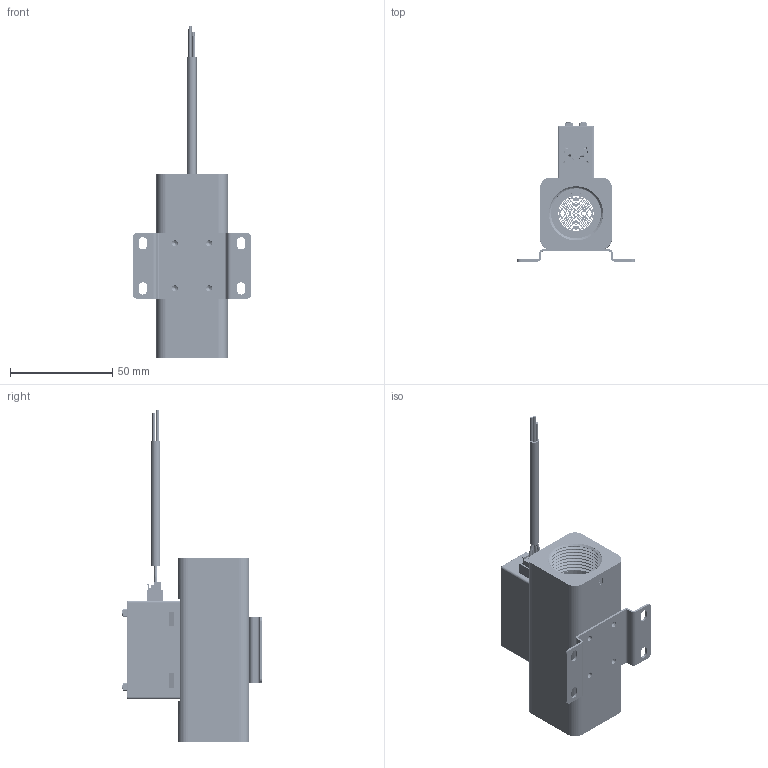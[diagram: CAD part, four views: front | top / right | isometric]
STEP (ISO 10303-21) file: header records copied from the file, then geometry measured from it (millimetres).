
FILE_DESCRIPTION( (''), '2;1');
FILE_NAME( 'QGKK_2000L_R3-4.step', '2023-06-20T10:21:06+08:00', (''), (''), '', '', '');
FILE_SCHEMA (('CONFIG_CONTROL_DESIGN'));
Products named in the file (1): QGKK 2000L_R3-4
Bounding box: 58 x 68 x 162.2 mm (x, y, z)
Volume: 92491.4 mm3; surface area: 40574 mm2
Topology: 5 solids, 11 shells, 2081 faces, 6020 edges, 3993 vertices
Faces by surface type: cylinder 1523, plane 429, torus 66, cone 27, extrusion 23, bspline 10, sphere 3
Full cylindrical faces by diameter (mm): 0.5 x1380, 1.5 x4, 2.5 x4, 3 x4, 4.5 x1, 20 x3, 27 x2
Entity records: 72752 total; most frequent: CARTESIAN_POINT 15538, DIRECTION 11646, ORIENTED_EDGE 9098, EDGE_LOOP 6332, FACE_BOUND 5729, AXIS2_PLACEMENT_3D 5204, EDGE_CURVE 4549, VERTEX_POINT 3965
